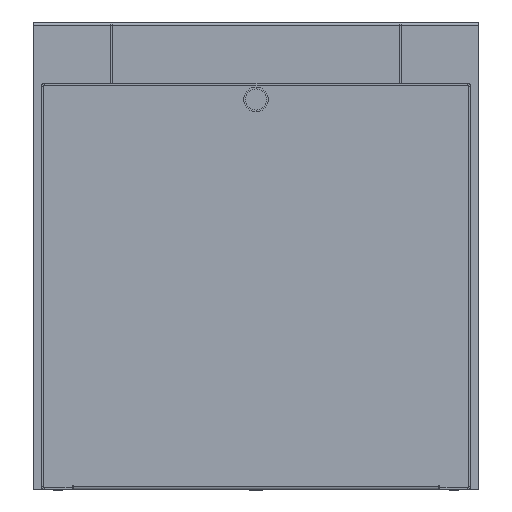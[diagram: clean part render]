
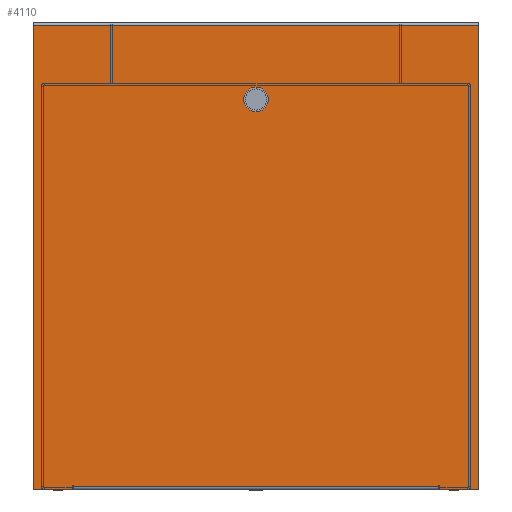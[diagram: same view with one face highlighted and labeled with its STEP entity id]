
A CAD part, front view. The second image highlights one B-rep face of the part: STEP entity #4110.
In plain terms, the highlighted planar face has unit normal (0, -1, 0).
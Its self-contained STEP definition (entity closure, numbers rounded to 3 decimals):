
#21 = DIRECTION ( 'NONE',  ( 1., 0., 0. ) ) ;
#107 = DIRECTION ( 'NONE',  ( 0., 0., -1. ) ) ;
#180 = DIRECTION ( 'NONE',  ( 0., 0., -1. ) ) ;
#182 = DIRECTION ( 'NONE',  ( 0., 0., -1. ) ) ;
#304 = DIRECTION ( 'NONE',  ( 0., 0., 1. ) ) ;
#307 = VECTOR ( 'NONE', #2959, 1000. ) ;
#389 = CARTESIAN_POINT ( 'NONE',  ( 0., -250., -5. ) ) ;
#428 = EDGE_CURVE ( 'NONE', #2617, #688, #3457, .T. ) ;
#454 = VECTOR ( 'NONE', #2441, 1000. ) ;
#514 = CARTESIAN_POINT ( 'NONE',  ( -165., -250., -365. ) ) ;
#528 = DIRECTION ( 'NONE',  ( 0., 0., 1. ) ) ;
#550 = VECTOR ( 'NONE', #1992, 1000. ) ;
#598 = FACE_BOUND ( 'NONE', #1656, .T. ) ;
#655 = LINE ( 'NONE', #672, #3548 ) ;
#672 = CARTESIAN_POINT ( 'NONE',  ( -165., -250., 0. ) ) ;
#688 = VERTEX_POINT ( 'NONE', #1910 ) ;
#749 = ORIENTED_EDGE ( 'NONE', *, *, #3925, .T. ) ;
#874 = CARTESIAN_POINT ( 'NONE',  ( -164., -250., 0. ) ) ;
#887 = LINE ( 'NONE', #4714, #4798 ) ;
#896 = VERTEX_POINT ( 'NONE', #1441 ) ;
#906 = VERTEX_POINT ( 'NONE', #3335 ) ;
#954 = VERTEX_POINT ( 'NONE', #4826 ) ;
#957 = CARTESIAN_POINT ( 'NONE',  ( 164., -250., -361.263 ) ) ;
#972 = AXIS2_PLACEMENT_3D ( 'NONE', #1958, #1582, #4237 ) ;
#1011 = VECTOR ( 'NONE', #2283, 1000. ) ;
#1101 = VERTEX_POINT ( 'NONE', #957 ) ;
#1117 = CARTESIAN_POINT ( 'NONE',  ( 0., -250., -361.263 ) ) ;
#1126 = LINE ( 'NONE', #4183, #1011 ) ;
#1149 = DIRECTION ( 'NONE',  ( 1., 0., 0. ) ) ;
#1178 = CIRCLE ( 'NONE', #2940, 9.5 ) ;
#1188 = LINE ( 'NONE', #874, #307 ) ;
#1194 = LINE ( 'NONE', #3079, #2067 ) ;
#1204 = DIRECTION ( 'NONE',  ( 1., 0., 0. ) ) ;
#1329 = VERTEX_POINT ( 'NONE', #4704 ) ;
#1339 = EDGE_CURVE ( 'NONE', #688, #3211, #2552, .T. ) ;
#1373 = CARTESIAN_POINT ( 'NONE',  ( -164., -250., -362.263 ) ) ;
#1415 = VECTOR ( 'NONE', #3745, 1000. ) ;
#1441 = CARTESIAN_POINT ( 'NONE',  ( 165., -250., -361.263 ) ) ;
#1582 = DIRECTION ( 'NONE',  ( 0., -1., 0. ) ) ;
#1656 = EDGE_LOOP ( 'NONE', ( #3287, #3169 ) ) ;
#1735 = CARTESIAN_POINT ( 'NONE',  ( -200., -250., 52.263 ) ) ;
#1744 = EDGE_CURVE ( 'NONE', #3211, #4350, #3560, .T. ) ;
#1763 = VERTEX_POINT ( 'NONE', #514 ) ;
#1767 = VECTOR ( 'NONE', #21, 1000. ) ;
#1800 = CARTESIAN_POINT ( 'NONE',  ( 164., -250., 0. ) ) ;
#1868 = ORIENTED_EDGE ( 'NONE', *, *, #428, .T. ) ;
#1902 = ORIENTED_EDGE ( 'NONE', *, *, #2646, .T. ) ;
#1910 = CARTESIAN_POINT ( 'NONE',  ( 200., -250., -365. ) ) ;
#1926 = ORIENTED_EDGE ( 'NONE', *, *, #2579, .T. ) ;
#1944 = ORIENTED_EDGE ( 'NONE', *, *, #2938, .T. ) ;
#1958 = CARTESIAN_POINT ( 'NONE',  ( 0., -250., 0. ) ) ;
#1992 = DIRECTION ( 'NONE',  ( -1., 0., 0. ) ) ;
#2067 = VECTOR ( 'NONE', #1204, 1000. ) ;
#2195 = CARTESIAN_POINT ( 'NONE',  ( 165., -250., -365. ) ) ;
#2196 = CARTESIAN_POINT ( 'NONE',  ( -165., -250., -361.263 ) ) ;
#2228 = ORIENTED_EDGE ( 'NONE', *, *, #1744, .T. ) ;
#2232 = EDGE_CURVE ( 'NONE', #3235, #954, #1194, .T. ) ;
#2264 = EDGE_CURVE ( 'NONE', #2792, #3077, #2960, .T. ) ;
#2283 = DIRECTION ( 'NONE',  ( 0., 0., -1. ) ) ;
#2314 = ORIENTED_EDGE ( 'NONE', *, *, #4667, .T. ) ;
#2342 = DIRECTION ( 'NONE',  ( 0., -1., 0. ) ) ;
#2369 = CARTESIAN_POINT ( 'NONE',  ( 200., -250., 52.263 ) ) ;
#2402 = EDGE_CURVE ( 'NONE', #4350, #1329, #4380, .T. ) ;
#2418 = DIRECTION ( 'NONE',  ( 0., -1., 0. ) ) ;
#2438 = ORIENTED_EDGE ( 'NONE', *, *, #2981, .T. ) ;
#2441 = DIRECTION ( 'NONE',  ( 1., 0., 0. ) ) ;
#2538 = DIRECTION ( 'NONE',  ( 0., 0., 1. ) ) ;
#2552 = LINE ( 'NONE', #3929, #4334 ) ;
#2579 = EDGE_CURVE ( 'NONE', #1763, #3235, #655, .T. ) ;
#2617 = VERTEX_POINT ( 'NONE', #2195 ) ;
#2646 = EDGE_CURVE ( 'NONE', #954, #2845, #1188, .T. ) ;
#2650 = LINE ( 'NONE', #1117, #1767 ) ;
#2734 = ORIENTED_EDGE ( 'NONE', *, *, #2232, .T. ) ;
#2792 = VERTEX_POINT ( 'NONE', #3964 ) ;
#2845 = VERTEX_POINT ( 'NONE', #1373 ) ;
#2858 = CARTESIAN_POINT ( 'NONE',  ( 200., -250., 52.263 ) ) ;
#2938 = EDGE_CURVE ( 'NONE', #1329, #1763, #887, .T. ) ;
#2940 = AXIS2_PLACEMENT_3D ( 'NONE', #4707, #2418, #180 ) ;
#2959 = DIRECTION ( 'NONE',  ( 0., 0., -1. ) ) ;
#2960 = CIRCLE ( 'NONE', #4347, 9.5 ) ;
#2981 = EDGE_CURVE ( 'NONE', #1101, #896, #2650, .T. ) ;
#3077 = VERTEX_POINT ( 'NONE', #389 ) ;
#3079 = CARTESIAN_POINT ( 'NONE',  ( 0., -250., -361.263 ) ) ;
#3169 = ORIENTED_EDGE ( 'NONE', *, *, #4857, .F. ) ;
#3211 = VERTEX_POINT ( 'NONE', #2858 ) ;
#3235 = VERTEX_POINT ( 'NONE', #2196 ) ;
#3287 = ORIENTED_EDGE ( 'NONE', *, *, #2264, .F. ) ;
#3335 = CARTESIAN_POINT ( 'NONE',  ( 164., -250., -362.263 ) ) ;
#3457 = LINE ( 'NONE', #4335, #454 ) ;
#3548 = VECTOR ( 'NONE', #2538, 1000. ) ;
#3560 = LINE ( 'NONE', #2369, #550 ) ;
#3573 = ORIENTED_EDGE ( 'NONE', *, *, #1339, .T. ) ;
#3607 = FACE_OUTER_BOUND ( 'NONE', #4815, .T. ) ;
#3669 = VECTOR ( 'NONE', #304, 1000. ) ;
#3745 = DIRECTION ( 'NONE',  ( 1., 0., 0. ) ) ;
#3779 = LINE ( 'NONE', #4875, #1415 ) ;
#3820 = EDGE_CURVE ( 'NONE', #906, #1101, #4683, .T. ) ;
#3854 = PLANE ( 'NONE',  #972 ) ;
#3925 = EDGE_CURVE ( 'NONE', #2845, #906, #3779, .T. ) ;
#3929 = CARTESIAN_POINT ( 'NONE',  ( 200., -250., -365. ) ) ;
#3964 = CARTESIAN_POINT ( 'NONE',  ( 0., -250., -24. ) ) ;
#4110 = ADVANCED_FACE ( 'NONE', ( #598, #3607 ), #3854, .T. ) ;
#4183 = CARTESIAN_POINT ( 'NONE',  ( 165., -250., 0. ) ) ;
#4237 = DIRECTION ( 'NONE',  ( 0., 0., -1. ) ) ;
#4261 = VECTOR ( 'NONE', #182, 1000. ) ;
#4304 = CARTESIAN_POINT ( 'NONE',  ( -200., -250., -365. ) ) ;
#4334 = VECTOR ( 'NONE', #528, 1000. ) ;
#4335 = CARTESIAN_POINT ( 'NONE',  ( 200., -250., -365. ) ) ;
#4347 = AXIS2_PLACEMENT_3D ( 'NONE', #4620, #2342, #107 ) ;
#4350 = VERTEX_POINT ( 'NONE', #1735 ) ;
#4380 = LINE ( 'NONE', #4304, #4261 ) ;
#4620 = CARTESIAN_POINT ( 'NONE',  ( 0., -250., -14.5 ) ) ;
#4644 = ORIENTED_EDGE ( 'NONE', *, *, #2402, .T. ) ;
#4667 = EDGE_CURVE ( 'NONE', #896, #2617, #1126, .T. ) ;
#4683 = LINE ( 'NONE', #1800, #3669 ) ;
#4704 = CARTESIAN_POINT ( 'NONE',  ( -200., -250., -365. ) ) ;
#4707 = CARTESIAN_POINT ( 'NONE',  ( 0., -250., -14.5 ) ) ;
#4714 = CARTESIAN_POINT ( 'NONE',  ( 200., -250., -365. ) ) ;
#4798 = VECTOR ( 'NONE', #1149, 1000. ) ;
#4815 = EDGE_LOOP ( 'NONE', ( #1944, #1926, #2734, #1902, #749, #4828, #2438, #2314, #1868, #3573, #2228, #4644 ) ) ;
#4826 = CARTESIAN_POINT ( 'NONE',  ( -164., -250., -361.263 ) ) ;
#4828 = ORIENTED_EDGE ( 'NONE', *, *, #3820, .T. ) ;
#4857 = EDGE_CURVE ( 'NONE', #3077, #2792, #1178, .T. ) ;
#4875 = CARTESIAN_POINT ( 'NONE',  ( -164., -250., -362.263 ) ) ;
